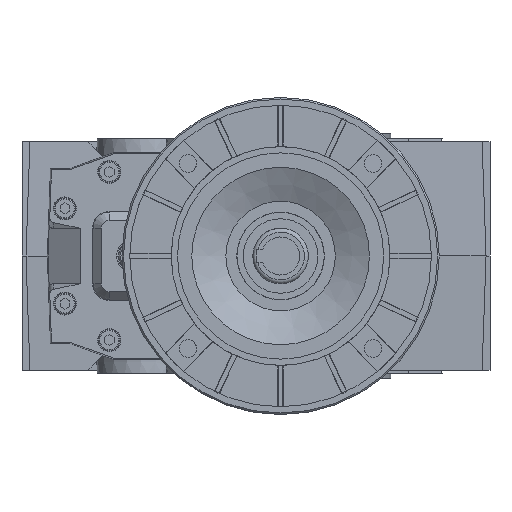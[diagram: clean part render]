
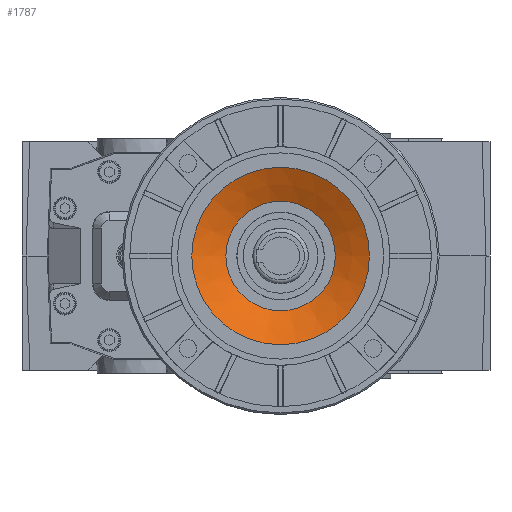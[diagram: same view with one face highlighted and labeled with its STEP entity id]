
A CAD part, left-side view. The second image highlights one B-rep face of the part: STEP entity #1787.
In plain terms, the highlighted conical face has half-angle 65 degrees and reference radius 34.514 mm.
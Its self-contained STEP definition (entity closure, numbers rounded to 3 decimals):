
#1787 = ADVANCED_FACE( '', ( #4403, #4404 ), #4405, .F. );
#4403 = FACE_OUTER_BOUND( '', #8503, .T. );
#4404 = FACE_BOUND( '', #8504, .T. );
#4405 = CONICAL_SURFACE( '', #8505, 34.514, 1.134 );
#8503 = EDGE_LOOP( '', ( #14705 ) );
#8504 = EDGE_LOOP( '', ( #14706 ) );
#8505 = AXIS2_PLACEMENT_3D( '', #14707, #14708, #14709 );
#14705 = ORIENTED_EDGE( '', *, *, #22173, .F. );
#14706 = ORIENTED_EDGE( '', *, *, #22174, .T. );
#14707 = CARTESIAN_POINT( '', ( -238.5, 4.5, 0. ) );
#14708 = DIRECTION( '', ( -1., 0., 0. ) );
#14709 = DIRECTION( '', ( 0., 1., 0. ) );
#22173 = EDGE_CURVE( '', #26576, #26576, #26577, .T. );
#22174 = EDGE_CURVE( '', #26578, #26578, #26579, .T. );
#26576 = VERTEX_POINT( '', #33304 );
#26577 = CIRCLE( '', #33305, 55.959 );
#26578 = VERTEX_POINT( '', #33306 );
#26579 = CIRCLE( '', #33307, 34.514 );
#33304 = CARTESIAN_POINT( '', ( -248.5, 60.459, 0. ) );
#33305 = AXIS2_PLACEMENT_3D( '', #39119, #39120, #39121 );
#33306 = CARTESIAN_POINT( '', ( -238.5, -30.014, 0. ) );
#33307 = AXIS2_PLACEMENT_3D( '', #39122, #39123, #39124 );
#39119 = CARTESIAN_POINT( '', ( -248.5, 4.5, 0. ) );
#39120 = DIRECTION( '', ( 1., 0., 0. ) );
#39121 = DIRECTION( '', ( 0., 1., 0. ) );
#39122 = CARTESIAN_POINT( '', ( -238.5, 4.5, 0. ) );
#39123 = DIRECTION( '', ( 1., 0., 0. ) );
#39124 = DIRECTION( '', ( 0., -1., 0. ) );
